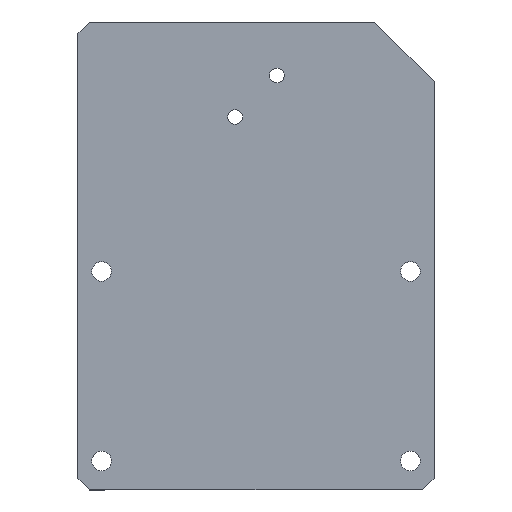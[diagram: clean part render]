
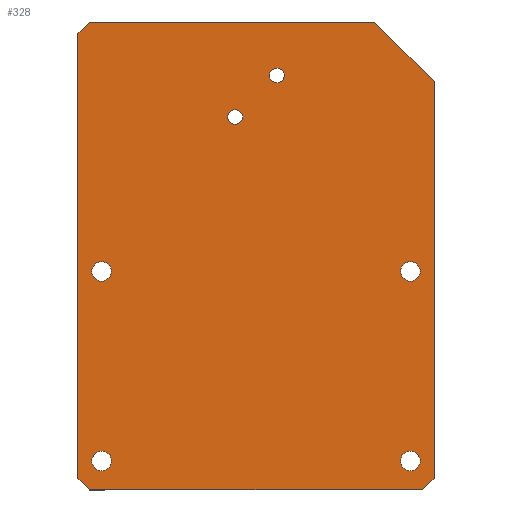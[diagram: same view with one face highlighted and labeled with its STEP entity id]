
A CAD part, top view. The second image highlights one B-rep face of the part: STEP entity #328.
In plain terms, the highlighted planar face has unit normal (0, 0, 1).
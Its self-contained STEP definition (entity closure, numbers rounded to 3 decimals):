
#21=FACE_BOUND('',#75,.T.);
#22=FACE_BOUND('',#76,.T.);
#23=FACE_BOUND('',#77,.T.);
#24=FACE_BOUND('',#78,.T.);
#25=FACE_BOUND('',#79,.T.);
#26=FACE_BOUND('',#80,.T.);
#36=PLANE('',#370);
#52=FACE_OUTER_BOUND('',#74,.T.);
#74=EDGE_LOOP('',(#293,#294,#295,#296,#297,#298,#299,#300));
#75=EDGE_LOOP('',(#301));
#76=EDGE_LOOP('',(#302));
#77=EDGE_LOOP('',(#303));
#78=EDGE_LOOP('',(#304));
#79=EDGE_LOOP('',(#305));
#80=EDGE_LOOP('',(#306));
#87=LINE('',#499,#117);
#93=LINE('',#510,#123);
#100=LINE('',#526,#130);
#103=LINE('',#531,#133);
#105=LINE('',#535,#135);
#107=LINE('',#539,#137);
#109=LINE('',#542,#139);
#110=LINE('',#544,#140);
#117=VECTOR('',#417,10.);
#123=VECTOR('',#425,10.);
#130=VECTOR('',#436,10.);
#133=VECTOR('',#441,10.);
#135=VECTOR('',#445,10.);
#137=VECTOR('',#449,10.);
#139=VECTOR('',#453,10.);
#140=VECTOR('',#456,10.);
#141=CIRCLE('',#344,1.25);
#143=CIRCLE('',#347,1.25);
#145=CIRCLE('',#350,1.65);
#147=CIRCLE('',#353,1.65);
#149=CIRCLE('',#356,1.65);
#151=CIRCLE('',#359,1.65);
#153=VERTEX_POINT('',#461);
#155=VERTEX_POINT('',#467);
#157=VERTEX_POINT('',#473);
#159=VERTEX_POINT('',#479);
#161=VERTEX_POINT('',#485);
#163=VERTEX_POINT('',#491);
#165=VERTEX_POINT('',#497);
#166=VERTEX_POINT('',#498);
#170=VERTEX_POINT('',#508);
#176=VERTEX_POINT('',#524);
#177=VERTEX_POINT('',#525);
#178=VERTEX_POINT('',#530);
#179=VERTEX_POINT('',#534);
#180=VERTEX_POINT('',#538);
#181=EDGE_CURVE('',#153,#153,#141,.T.);
#184=EDGE_CURVE('',#155,#155,#143,.T.);
#187=EDGE_CURVE('',#157,#157,#145,.T.);
#190=EDGE_CURVE('',#159,#159,#147,.T.);
#193=EDGE_CURVE('',#161,#161,#149,.T.);
#196=EDGE_CURVE('',#163,#163,#151,.T.);
#199=EDGE_CURVE('',#165,#166,#87,.T.);
#205=EDGE_CURVE('',#165,#170,#93,.T.);
#212=EDGE_CURVE('',#176,#177,#100,.T.);
#215=EDGE_CURVE('',#178,#177,#103,.T.);
#217=EDGE_CURVE('',#178,#179,#105,.T.);
#219=EDGE_CURVE('',#180,#170,#107,.T.);
#221=EDGE_CURVE('',#176,#166,#109,.T.);
#222=EDGE_CURVE('',#180,#179,#110,.T.);
#293=ORIENTED_EDGE('',*,*,#199,.F.);
#294=ORIENTED_EDGE('',*,*,#205,.T.);
#295=ORIENTED_EDGE('',*,*,#219,.F.);
#296=ORIENTED_EDGE('',*,*,#222,.T.);
#297=ORIENTED_EDGE('',*,*,#217,.F.);
#298=ORIENTED_EDGE('',*,*,#215,.T.);
#299=ORIENTED_EDGE('',*,*,#212,.F.);
#300=ORIENTED_EDGE('',*,*,#221,.T.);
#301=ORIENTED_EDGE('',*,*,#181,.T.);
#302=ORIENTED_EDGE('',*,*,#184,.T.);
#303=ORIENTED_EDGE('',*,*,#187,.T.);
#304=ORIENTED_EDGE('',*,*,#190,.T.);
#305=ORIENTED_EDGE('',*,*,#193,.T.);
#306=ORIENTED_EDGE('',*,*,#196,.T.);
#328=ADVANCED_FACE('',(#52,#21,#22,#23,#24,#25,#26),#36,.T.);
#344=AXIS2_PLACEMENT_3D('',#462,#375,#376);
#347=AXIS2_PLACEMENT_3D('',#468,#382,#383);
#350=AXIS2_PLACEMENT_3D('',#474,#389,#390);
#353=AXIS2_PLACEMENT_3D('',#480,#396,#397);
#356=AXIS2_PLACEMENT_3D('',#486,#403,#404);
#359=AXIS2_PLACEMENT_3D('',#492,#410,#411);
#370=AXIS2_PLACEMENT_3D('',#545,#457,#458);
#375=DIRECTION('center_axis',(0.,0.,
-1.));
#376=DIRECTION('ref_axis',(-1.,0.,0.));
#382=DIRECTION('center_axis',(0.,0.,
-1.));
#383=DIRECTION('ref_axis',(-1.,0.,0.));
#389=DIRECTION('center_axis',(0.,0.,
-1.));
#390=DIRECTION('ref_axis',(-1.,0.,0.));
#396=DIRECTION('center_axis',(0.,0.,
-1.));
#397=DIRECTION('ref_axis',(-1.,0.,0.));
#403=DIRECTION('center_axis',(0.,0.,
-1.));
#404=DIRECTION('ref_axis',(-1.,0.,0.));
#410=DIRECTION('center_axis',(0.,0.,
-1.));
#411=DIRECTION('ref_axis',(-1.,0.,0.));
#417=DIRECTION('',(0.707,0.707,0.));
#425=DIRECTION('',(0.,-1.,0.));
#436=DIRECTION('',(0.707,-0.707,0.));
#441=DIRECTION('',(0.,1.,0.));
#445=DIRECTION('',(-0.707,-0.707,0.));
#449=DIRECTION('',(-0.707,0.707,0.));
#453=DIRECTION('',(-1.,0.,0.));
#456=DIRECTION('',(1.,0.,0.));
#457=DIRECTION('center_axis',(0.,0.,
1.));
#458=DIRECTION('ref_axis',(-1.,0.,0.));
#461=CARTESIAN_POINT('',(-119.397,-8.63,-102.547));
#462=CARTESIAN_POINT('Origin',(-120.647,-8.63,-102.547));
#467=CARTESIAN_POINT('',(-126.397,-15.63,-102.547));
#468=CARTESIAN_POINT('Origin',(-127.647,-15.63,-102.547));
#473=CARTESIAN_POINT('',(-96.497,-41.63,-102.547));
#474=CARTESIAN_POINT('Origin',(-98.147,-41.63,-102.547));
#479=CARTESIAN_POINT('',(-96.497,-73.53,-102.547));
#480=CARTESIAN_POINT('Origin',(-98.147,-73.53,-102.547));
#485=CARTESIAN_POINT('',(-148.497,-41.63,-102.547));
#486=CARTESIAN_POINT('Origin',(-150.147,-41.63,-102.547));
#491=CARTESIAN_POINT('',(-148.497,-73.53,-102.547));
#492=CARTESIAN_POINT('Origin',(-150.147,-73.53,-102.547));
#497=CARTESIAN_POINT('',(-154.147,-1.63,-102.547));
#498=CARTESIAN_POINT('',(-152.147,0.37,-102.547));
#499=CARTESIAN_POINT('',(-155.497,-2.98,-102.547));
#508=CARTESIAN_POINT('',(-154.147,-76.43,-102.547));
#510=CARTESIAN_POINT('',(-154.147,0.37,-102.547));
#524=CARTESIAN_POINT('',(-104.147,0.37,-102.547));
#525=CARTESIAN_POINT('',(-94.147,-9.63,-102.547));
#526=CARTESIAN_POINT('',(-96.797,-6.98,-102.547));
#530=CARTESIAN_POINT('',(-94.147,-76.43,-102.547));
#531=CARTESIAN_POINT('',(-94.147,-78.43,-102.547));
#534=CARTESIAN_POINT('',(-96.147,-78.43,-102.547));
#535=CARTESIAN_POINT('',(-92.797,-75.08,-102.547));
#538=CARTESIAN_POINT('',(-152.147,-78.43,-102.547));
#539=CARTESIAN_POINT('',(-155.497,-75.08,-102.547));
#542=CARTESIAN_POINT('',(-94.147,0.37,-102.547));
#544=CARTESIAN_POINT('',(-154.147,-78.43,-102.547));
#545=CARTESIAN_POINT('Origin',(-124.147,-39.03,-102.547));
